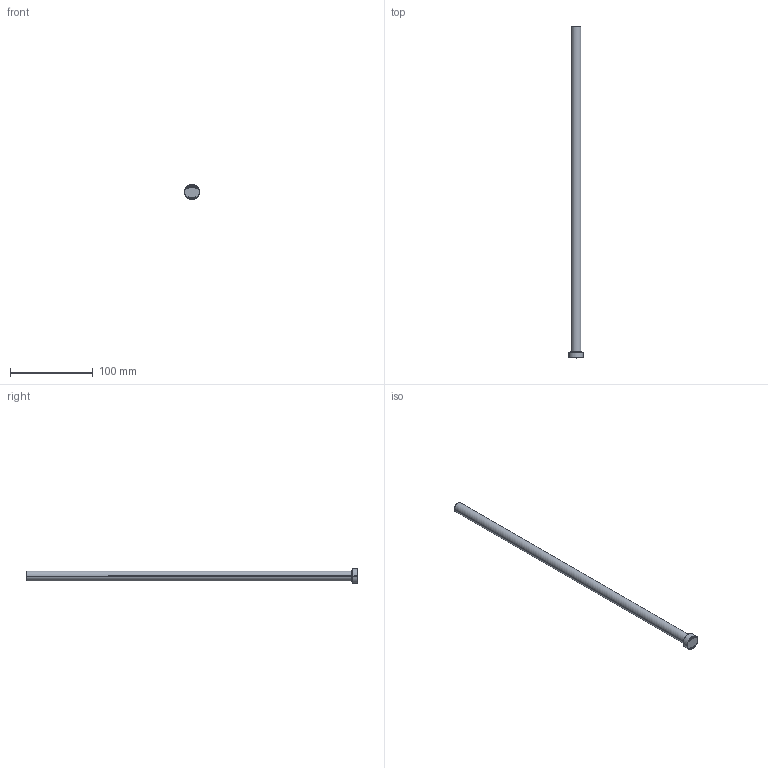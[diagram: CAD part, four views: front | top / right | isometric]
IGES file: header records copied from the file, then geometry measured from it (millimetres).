
Start section: SolidWorks IGES file using analytic representation for surfaces
Global section: file name: C:\Users\User\Downloads\Matripeça 31-08 tar\PB - PINO EXTRATOR TIPO _B_ (CATÁLOGO)\PB12,0\PB12,0400.IGS; native system: SolidWorks 2024; preprocessor: SolidWorks 2024; author: User; date: 260901.154212; units: millimetre
Bounding box: 18 x 400 x 18 mm (x, y, z)
Surface area: 15722 mm2 (no closed solid volume)
Topology: 0 solids, 0 shells, 398 faces, 3938 edges, 3938 vertices
Faces by surface type: bspline 384, revolution 14
